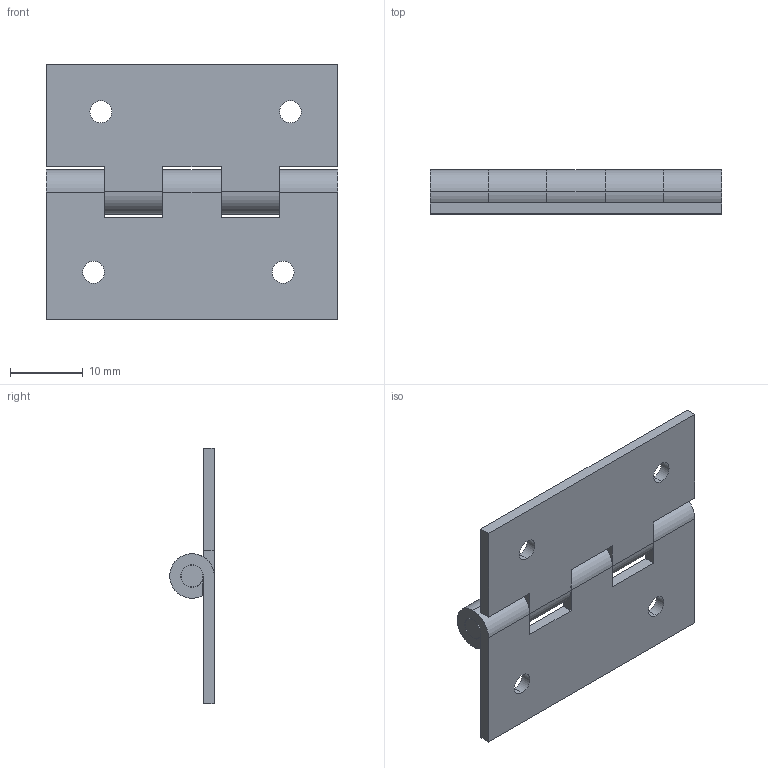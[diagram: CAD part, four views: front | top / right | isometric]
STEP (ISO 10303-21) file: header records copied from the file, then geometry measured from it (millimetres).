
FILE_DESCRIPTION (( 'STEP AP203' ), '1' );
FILE_NAME ('B18-18781.STEP', '2024-10-24T09:16:54', ( '' ), ( '' ), 'SwSTEP 2.0', 'SolidWorks 2021', '' );
FILE_SCHEMA (( 'CONFIG_CONTROL_DESIGN' ));
Length unit declared in the file: millimetre
Products named in the file (4): B18-107811-2; B18-107811-1; B18-3-40; B18-18781
Assembly tree (3 placements, depth 2):
  B18-18781
    B18-3-40
    B18-107811-1
    B18-107811-2
Bounding box: 40 x 6.1 x 35 mm (x, y, z)
Volume: 2877.9 mm3; surface area: 4506 mm2
Topology: 3 solids, 3 shells, 70 faces, 192 edges, 128 vertices
Faces by surface type: cylinder 40, plane 30
Entity records: 2686 total; most frequent: DIRECTION 424, CARTESIAN_POINT 396, ORIENTED_EDGE 384, EDGE_CURVE 192, AXIS2_PLACEMENT_3D 156, VERTEX_POINT 128, LINE 112, VECTOR 112
